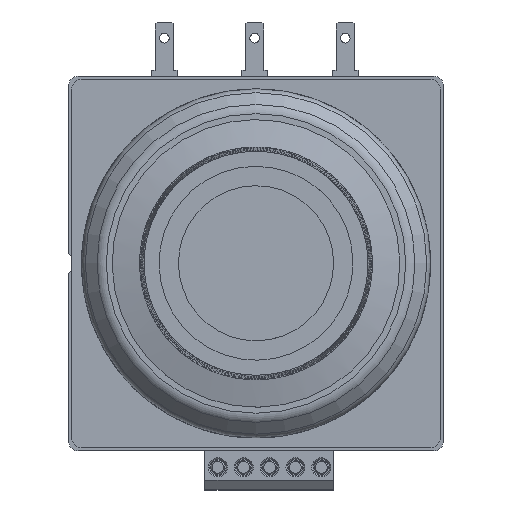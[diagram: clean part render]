
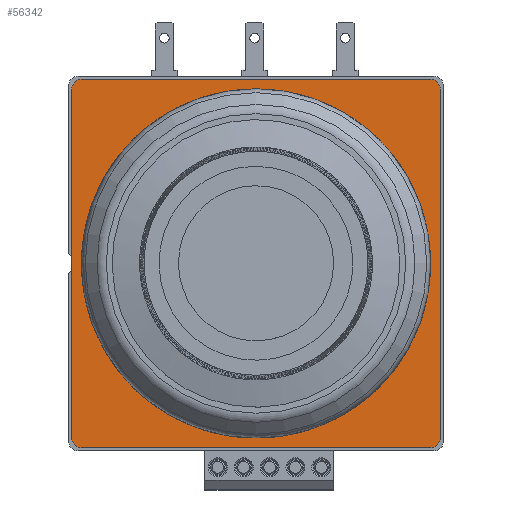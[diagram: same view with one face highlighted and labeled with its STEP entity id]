
A CAD part, top view. The second image highlights one B-rep face of the part: STEP entity #56342.
In plain terms, the highlighted planar face has unit normal (0, 0, 1).
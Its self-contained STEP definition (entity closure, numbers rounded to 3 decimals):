
#1492=FACE_BOUND('',#7981,.T.);
#1493=FACE_BOUND('',#7982,.T.);
#1494=FACE_BOUND('',#7983,.T.);
#1495=FACE_BOUND('',#7984,.T.);
#1496=FACE_BOUND('',#7985,.T.);
#1677=CIRCLE('',#59983,8.6);
#1678=CIRCLE('',#59984,8.6);
#1680=CIRCLE('',#59987,1.6);
#1681=CIRCLE('',#59988,1.6);
#1683=CIRCLE('',#59991,1.6);
#1684=CIRCLE('',#59992,1.6);
#1686=CIRCLE('',#59995,1.6);
#1687=CIRCLE('',#59996,1.6);
#1689=CIRCLE('',#59999,1.6);
#1690=CIRCLE('',#60000,1.6);
#1692=CIRCLE('',#60003,1.5);
#1694=CIRCLE('',#60006,1.5);
#1695=CIRCLE('',#60007,1.5);
#1696=CIRCLE('',#60008,1.5);
#4792=FACE_OUTER_BOUND('',#7980,.T.);
#7980=EDGE_LOOP('',(#37080,#37081,#37082,#37083,#37084,#37085,#37086,#37087));
#7981=EDGE_LOOP('',(#37088,#37089));
#7982=EDGE_LOOP('',(#37090,#37091));
#7983=EDGE_LOOP('',(#37092,#37093));
#7984=EDGE_LOOP('',(#37094,#37095));
#7985=EDGE_LOOP('',(#37096,#37097));
#11258=LINE('',#84912,#16786);
#11259=LINE('',#84916,#16787);
#11260=LINE('',#84920,#16788);
#11261=LINE('',#84923,#16789);
#16786=VECTOR('',#66685,10.);
#16787=VECTOR('',#66688,10.);
#16788=VECTOR('',#66691,10.);
#16789=VECTOR('',#66694,10.);
#22342=VERTEX_POINT('',#84862);
#22343=VERTEX_POINT('',#84863);
#22345=VERTEX_POINT('',#84870);
#22346=VERTEX_POINT('',#84871);
#22348=VERTEX_POINT('',#84878);
#22349=VERTEX_POINT('',#84879);
#22351=VERTEX_POINT('',#84886);
#22352=VERTEX_POINT('',#84887);
#22354=VERTEX_POINT('',#84894);
#22355=VERTEX_POINT('',#84895);
#22357=VERTEX_POINT('',#84902);
#22358=VERTEX_POINT('',#84903);
#22361=VERTEX_POINT('',#84911);
#22362=VERTEX_POINT('',#84913);
#22363=VERTEX_POINT('',#84915);
#22364=VERTEX_POINT('',#84917);
#22365=VERTEX_POINT('',#84919);
#22366=VERTEX_POINT('',#84921);
#28087=EDGE_CURVE('',#22342,#22343,#1677,.T.);
#28088=EDGE_CURVE('',#22343,#22342,#1678,.T.);
#28091=EDGE_CURVE('',#22345,#22346,#1680,.T.);
#28092=EDGE_CURVE('',#22346,#22345,#1681,.T.);
#28095=EDGE_CURVE('',#22348,#22349,#1683,.T.);
#28096=EDGE_CURVE('',#22349,#22348,#1684,.T.);
#28099=EDGE_CURVE('',#22351,#22352,#1686,.T.);
#28100=EDGE_CURVE('',#22352,#22351,#1687,.T.);
#28103=EDGE_CURVE('',#22354,#22355,#1689,.T.);
#28104=EDGE_CURVE('',#22355,#22354,#1690,.T.);
#28107=EDGE_CURVE('',#22357,#22358,#1692,.T.);
#28111=EDGE_CURVE('',#22361,#22357,#11258,.T.);
#28112=EDGE_CURVE('',#22362,#22361,#1694,.T.);
#28113=EDGE_CURVE('',#22363,#22362,#11259,.T.);
#28114=EDGE_CURVE('',#22364,#22363,#1695,.T.);
#28115=EDGE_CURVE('',#22365,#22364,#11260,.T.);
#28116=EDGE_CURVE('',#22366,#22365,#1696,.T.);
#28117=EDGE_CURVE('',#22358,#22366,#11261,.T.);
#37080=ORIENTED_EDGE('',*,*,#28107,.F.);
#37081=ORIENTED_EDGE('',*,*,#28111,.F.);
#37082=ORIENTED_EDGE('',*,*,#28112,.F.);
#37083=ORIENTED_EDGE('',*,*,#28113,.F.);
#37084=ORIENTED_EDGE('',*,*,#28114,.F.);
#37085=ORIENTED_EDGE('',*,*,#28115,.F.);
#37086=ORIENTED_EDGE('',*,*,#28116,.F.);
#37087=ORIENTED_EDGE('',*,*,#28117,.F.);
#37088=ORIENTED_EDGE('',*,*,#28087,.T.);
#37089=ORIENTED_EDGE('',*,*,#28088,.T.);
#37090=ORIENTED_EDGE('',*,*,#28091,.T.);
#37091=ORIENTED_EDGE('',*,*,#28092,.T.);
#37092=ORIENTED_EDGE('',*,*,#28095,.T.);
#37093=ORIENTED_EDGE('',*,*,#28096,.T.);
#37094=ORIENTED_EDGE('',*,*,#28099,.T.);
#37095=ORIENTED_EDGE('',*,*,#28100,.T.);
#37096=ORIENTED_EDGE('',*,*,#28103,.T.);
#37097=ORIENTED_EDGE('',*,*,#28104,.T.);
#54205=PLANE('',#60005);
#56342=ADVANCED_FACE('',(#4792,#1492,#1493,#1494,#1495,#1496),#54205,.T.);
#59983=AXIS2_PLACEMENT_3D('',#84864,#66632,#66633);
#59984=AXIS2_PLACEMENT_3D('',#84865,#66634,#66635);
#59987=AXIS2_PLACEMENT_3D('',#84872,#66641,#66642);
#59988=AXIS2_PLACEMENT_3D('',#84873,#66643,#66644);
#59991=AXIS2_PLACEMENT_3D('',#84880,#66650,#66651);
#59992=AXIS2_PLACEMENT_3D('',#84881,#66652,#66653);
#59995=AXIS2_PLACEMENT_3D('',#84888,#66659,#66660);
#59996=AXIS2_PLACEMENT_3D('',#84889,#66661,#66662);
#59999=AXIS2_PLACEMENT_3D('',#84896,#66668,#66669);
#60000=AXIS2_PLACEMENT_3D('',#84897,#66670,#66671);
#60003=AXIS2_PLACEMENT_3D('',#84904,#66677,#66678);
#60005=AXIS2_PLACEMENT_3D('',#84910,#66683,#66684);
#60006=AXIS2_PLACEMENT_3D('',#84914,#66686,#66687);
#60007=AXIS2_PLACEMENT_3D('',#84918,#66689,#66690);
#60008=AXIS2_PLACEMENT_3D('',#84922,#66692,#66693);
#66632=DIRECTION('center_axis',(0.,0.,-1.));
#66633=DIRECTION('ref_axis',(1.,0.,0.));
#66634=DIRECTION('center_axis',(0.,0.,-1.));
#66635=DIRECTION('ref_axis',(1.,0.,0.));
#66641=DIRECTION('center_axis',(0.,0.,-1.));
#66642=DIRECTION('ref_axis',(1.,0.,0.));
#66643=DIRECTION('center_axis',(0.,0.,-1.));
#66644=DIRECTION('ref_axis',(1.,0.,0.));
#66650=DIRECTION('center_axis',(0.,0.,-1.));
#66651=DIRECTION('ref_axis',(1.,0.,0.));
#66652=DIRECTION('center_axis',(0.,0.,-1.));
#66653=DIRECTION('ref_axis',(1.,0.,0.));
#66659=DIRECTION('center_axis',(0.,0.,-1.));
#66660=DIRECTION('ref_axis',(1.,0.,0.));
#66661=DIRECTION('center_axis',(0.,0.,-1.));
#66662=DIRECTION('ref_axis',(1.,0.,0.));
#66668=DIRECTION('center_axis',(0.,0.,-1.));
#66669=DIRECTION('ref_axis',(1.,0.,0.));
#66670=DIRECTION('center_axis',(0.,0.,-1.));
#66671=DIRECTION('ref_axis',(1.,0.,0.));
#66677=DIRECTION('center_axis',(0.,0.,-1.));
#66678=DIRECTION('ref_axis',(-0.707,-0.707,0.));
#66683=DIRECTION('center_axis',(0.,0.,1.));
#66684=DIRECTION('ref_axis',(1.,0.,0.));
#66685=DIRECTION('',(-1.,0.,0.));
#66686=DIRECTION('center_axis',(0.,0.,-1.));
#66687=DIRECTION('ref_axis',(0.707,-0.707,0.));
#66688=DIRECTION('',(0.,-1.,0.));
#66689=DIRECTION('center_axis',(0.,0.,-1.));
#66690=DIRECTION('ref_axis',(0.707,0.707,0.));
#66691=DIRECTION('',(1.,0.,0.));
#66692=DIRECTION('center_axis',(0.,0.,-1.));
#66693=DIRECTION('ref_axis',(-0.707,0.707,0.));
#66694=DIRECTION('',(0.,1.,0.));
#84862=CARTESIAN_POINT('',(8.6,0.,0.5));
#84863=CARTESIAN_POINT('',(-8.6,0.,0.5));
#84864=CARTESIAN_POINT('Origin',(0.,0.,0.5));
#84865=CARTESIAN_POINT('Origin',(0.,0.,0.5));
#84870=CARTESIAN_POINT('',(17.6,-16.,0.5));
#84871=CARTESIAN_POINT('',(14.4,-16.,0.5));
#84872=CARTESIAN_POINT('Origin',(16.,-16.,0.5));
#84873=CARTESIAN_POINT('Origin',(16.,-16.,0.5));
#84878=CARTESIAN_POINT('',(-14.4,16.,0.5));
#84879=CARTESIAN_POINT('',(-17.6,16.,0.5));
#84880=CARTESIAN_POINT('Origin',(-16.,16.,0.5));
#84881=CARTESIAN_POINT('Origin',(-16.,16.,0.5));
#84886=CARTESIAN_POINT('',(17.6,16.,0.5));
#84887=CARTESIAN_POINT('',(14.4,16.,0.5));
#84888=CARTESIAN_POINT('Origin',(16.,16.,0.5));
#84889=CARTESIAN_POINT('Origin',(16.,16.,0.5));
#84894=CARTESIAN_POINT('',(-14.4,-16.,0.5));
#84895=CARTESIAN_POINT('',(-17.6,-16.,0.5));
#84896=CARTESIAN_POINT('Origin',(-16.,-16.,0.5));
#84897=CARTESIAN_POINT('Origin',(-16.,-16.,0.5));
#84902=CARTESIAN_POINT('',(-27.,-28.5,0.5));
#84903=CARTESIAN_POINT('',(-28.5,-27.,0.5));
#84904=CARTESIAN_POINT('Origin',(-27.,-27.,0.5));
#84910=CARTESIAN_POINT('Origin',(0.,0.,0.5));
#84911=CARTESIAN_POINT('',(27.,-28.5,0.5));
#84912=CARTESIAN_POINT('',(28.5,-28.5,0.5));
#84913=CARTESIAN_POINT('',(28.5,-27.,0.5));
#84914=CARTESIAN_POINT('Origin',(27.,-27.,0.5));
#84915=CARTESIAN_POINT('',(28.5,27.,0.5));
#84916=CARTESIAN_POINT('',(28.5,28.5,0.5));
#84917=CARTESIAN_POINT('',(27.,28.5,0.5));
#84918=CARTESIAN_POINT('Origin',(27.,27.,0.5));
#84919=CARTESIAN_POINT('',(-27.,28.5,0.5));
#84920=CARTESIAN_POINT('',(-28.5,28.5,0.5));
#84921=CARTESIAN_POINT('',(-28.5,27.,0.5));
#84922=CARTESIAN_POINT('Origin',(-27.,27.,0.5));
#84923=CARTESIAN_POINT('',(-28.5,-28.5,0.5));
